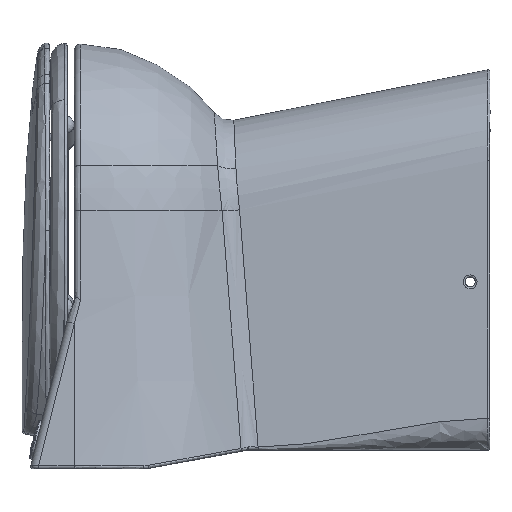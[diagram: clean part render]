
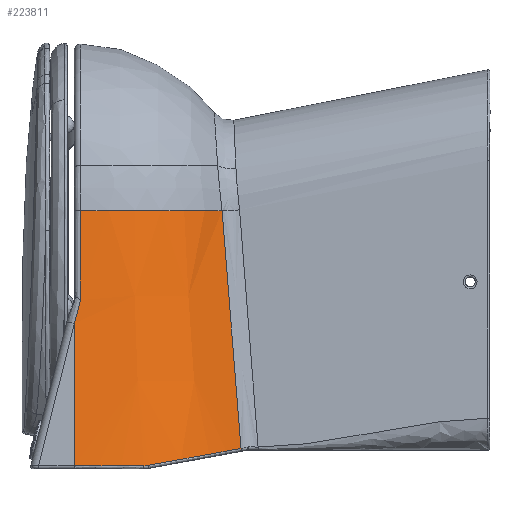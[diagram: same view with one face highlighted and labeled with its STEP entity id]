
A CAD part, left-side view. The second image highlights one B-rep face of the part: STEP entity #223811.
In plain terms, the highlighted conical face has half-angle 6.338 degrees and reference radius 179 mm.
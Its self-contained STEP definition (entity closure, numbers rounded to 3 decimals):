
#1657 = B_SPLINE_CURVE_WITH_KNOTS ( 'NONE', 3,
 ( #19451, #75058, #144416, #142193, #37627, #213667, #196633, #106965, #126270, #38738, #176265, #54644, #20566, #179606, #89871, #23924, #93240, #55779 ),
 .UNSPECIFIED., .F., .F.,
 ( 4, 2, 2, 2, 2, 2, 2, 2, 4 ),
 ( 0., 0.015, 0.023, 0.031, 0.062, 0.093, 0.1, 0.108, 0.123 ),
 .UNSPECIFIED. ) ;
#3231 = CARTESIAN_POINT ( 'NONE',  ( -187.799, -6.197, -75.043 ) ) ;
#4356 = CARTESIAN_POINT ( 'NONE',  ( -188.952, -6.195, -85.418 ) ) ;
#7313 = ORIENTED_EDGE ( 'NONE', *, *, #71809, .T. ) ;
#11017 = CARTESIAN_POINT ( 'NONE',  ( -191.674, 0., -109.012 ) ) ;
#12912 = CARTESIAN_POINT ( 'NONE',  ( -188.952, -6.195, -85.418 ) ) ;
#16528 = DIRECTION ( 'NONE',  ( 0., 0., 1. ) ) ;
#17618 = DIRECTION ( 'NONE',  ( 1., 0., 0. ) ) ;
#19451 = CARTESIAN_POINT ( 'NONE',  ( -193.467, -75.233, -252.222 ) ) ;
#20283 = CARTESIAN_POINT ( 'NONE',  ( -188.184, -6.196, -78.507 ) ) ;
#20566 = CARTESIAN_POINT ( 'NONE',  ( -138.283, -152.733, -238.149 ) ) ;
#20719 = VERTEX_POINT ( 'NONE', #222208 ) ;
#23924 = CARTESIAN_POINT ( 'NONE',  ( -126.462, -162.468, -236.381 ) ) ;
#24646 = VERTEX_POINT ( 'NONE', #67494 ) ;
#29949 = DIRECTION ( 'NONE',  ( -1., 0., 0. ) ) ;
#36221 = CARTESIAN_POINT ( 'NONE',  ( -181.985, -6.203, -22.734 ) ) ;
#37627 = CARTESIAN_POINT ( 'NONE',  ( -184.882, -93.6, -248.886 ) ) ;
#38548 = B_SPLINE_CURVE_WITH_KNOTS ( 'NONE', 3,
 ( #12912, #200398, #65164, #114115 ),
 .UNSPECIFIED., .F., .F.,
 ( 4, 4 ),
 ( 0.094, 0.119 ),
 .UNSPECIFIED. ) ;
#38738 = CARTESIAN_POINT ( 'NONE',  ( -156.351, -135.074, -241.355 ) ) ;
#41427 = VERTEX_POINT ( 'NONE', #43883 ) ;
#43883 = CARTESIAN_POINT ( 'NONE',  ( -188.952, -6.195, -85.418 ) ) ;
#44253 = ORIENTED_EDGE ( 'NONE', *, *, #182112, .T. ) ;
#45424 = CARTESIAN_POINT ( 'NONE',  ( -118.134, -168.397, -235.305 ) ) ;
#47076 = ORIENTED_EDGE ( 'NONE', *, *, #75992, .T. ) ;
#47473 = EDGE_CURVE ( 'NONE', #162203, #55395, #1657, .T. ) ;
#52141 = CARTESIAN_POINT ( 'NONE',  ( -178.892, -6.207, 5.095 ) ) ;
#53458 = CARTESIAN_POINT ( 'NONE',  ( -207.63, 0., -252.669 ) ) ;
#54357 = CARTESIAN_POINT ( 'NONE',  ( -185.52, -6.199, -54.538 ) ) ;
#54644 = CARTESIAN_POINT ( 'NONE',  ( -140.18, -151.04, -238.456 ) ) ;
#55149 = ORIENTED_EDGE ( 'NONE', *, *, #73479, .F. ) ;
#55395 = VERTEX_POINT ( 'NONE', #45424 ) ;
#55779 = CARTESIAN_POINT ( 'NONE',  ( -118.134, -168.397, -235.305 ) ) ;
#56603 = CARTESIAN_POINT ( 'NONE',  ( -187.8, -6.197, -75.051 ) ) ;
#62432 = VERTEX_POINT ( 'NONE', #206023 ) ;
#62836 = CARTESIAN_POINT ( 'NONE',  ( -194.774, -71.949, -252.669 ) ) ;
#64019 = ORIENTED_EDGE ( 'NONE', *, *, #64256, .F. ) ;
#64256 = EDGE_CURVE ( 'NONE', #20719, #24646, #205317, .T. ) ;
#65081 = CARTESIAN_POINT ( 'NONE',  ( -193.467, -75.233, -252.222 ) ) ;
#65164 = CARTESIAN_POINT ( 'NONE',  ( -190.8, -2.065, -101.143 ) ) ;
#65166 = CARTESIAN_POINT ( 'NONE',  ( 0., 0., 5.095 ) ) ;
#65882 = EDGE_CURVE ( 'NONE', #41427, #159106, #38548, .T. ) ;
#66351 = CARTESIAN_POINT ( 'NONE',  ( -195.378, -70.268, -252.669 ) ) ;
#67494 = CARTESIAN_POINT ( 'NONE',  ( -98.831, -149.243, 5.095 ) ) ;
#67662 = CARTESIAN_POINT ( 'NONE',  ( 0., 0., 5.095 ) ) ;
#71684 = VERTEX_POINT ( 'NONE', #185536 ) ;
#71809 = EDGE_CURVE ( 'NONE', #62432, #162203, #91518, .T. ) ;
#73479 = EDGE_CURVE ( 'NONE', #71684, #159106, #157735, .T. ) ;
#73667 = CARTESIAN_POINT ( 'NONE',  ( -186.279, -6.198, -61.367 ) ) ;
#75058 = CARTESIAN_POINT ( 'NONE',  ( -191.541, -79.925, -251.37 ) ) ;
#75873 = CARTESIAN_POINT ( 'NONE',  ( -187.038, -6.197, -68.197 ) ) ;
#75992 = EDGE_CURVE ( 'NONE', #71684, #62432, #140104, .T. ) ;
#82028 = AXIS2_PLACEMENT_3D ( 'NONE', #67662, #16528, #17618 ) ;
#83336 = DIRECTION ( 'NONE',  ( 0., 0., -1. ) ) ;
#83965 = CARTESIAN_POINT ( 'NONE',  ( -105.247, -155.669, -75.036 ) ) ;
#87582 = CARTESIAN_POINT ( 'NONE',  ( -199.421, -59.026, -252.669 ) ) ;
#89871 = CARTESIAN_POINT ( 'NONE',  ( -132.448, -157.69, -237.249 ) ) ;
#91518 = B_SPLINE_CURVE_WITH_KNOTS ( 'NONE', 3,
 ( #220742, #62836, #114030, #65081 ),
 .UNSPECIFIED., .F., .F.,
 ( 4, 4 ),
 ( 0., 0.005 ),
 .UNSPECIFIED. ) ;
#93240 = CARTESIAN_POINT ( 'NONE',  ( -122.356, -165.506, -235.83 ) ) ;
#106965 = CARTESIAN_POINT ( 'NONE',  ( -174.729, -111.185, -245.693 ) ) ;
#108610 = CONICAL_SURFACE ( 'NONE', #188416, 179., 0.111 ) ;
#110039 = CARTESIAN_POINT ( 'NONE',  ( -183.753, -6.201, -38.636 ) ) ;
#114030 = CARTESIAN_POINT ( 'NONE',  ( -194.136, -73.603, -252.518 ) ) ;
#114115 = CARTESIAN_POINT ( 'NONE',  ( -191.674, 0., -109.012 ) ) ;
#116059 = ORIENTED_EDGE ( 'NONE', *, *, #47473, .T. ) ;
#119741 = FACE_OUTER_BOUND ( 'NONE', #132245, .T. ) ;
#119762 = CARTESIAN_POINT ( 'NONE',  ( -193.467, -75.233, -252.222 ) ) ;
#121525 = CARTESIAN_POINT ( 'NONE',  ( -179.334, -6.206, 1.12 ) ) ;
#122846 = CARTESIAN_POINT ( 'NONE',  ( -202.492, -47.434, -252.669 ) ) ;
#126270 = CARTESIAN_POINT ( 'NONE',  ( -168.974, -119.451, -244.192 ) ) ;
#127338 = B_SPLINE_CURVE_WITH_KNOTS ( 'NONE', 3,
 ( #190717, #171507, #83965, #205530 ),
 .UNSPECIFIED., .F., .F.,
 ( 4, 4 ),
 ( 0.003, 0.245 ),
 .UNSPECIFIED. ) ;
#132245 = EDGE_LOOP ( 'NONE', ( #55149, #47076, #7313, #116059, #44253, #64019, #133849, #188136 ) ) ;
#133849 = ORIENTED_EDGE ( 'NONE', *, *, #159874, .T. ) ;
#135728 = CARTESIAN_POINT ( 'NONE',  ( -207.63, -11.947, -252.669 ) ) ;
#140104 = B_SPLINE_CURVE_WITH_KNOTS ( 'NONE', 3,
 ( #53458, #135728, #168673, #122846, #87582, #66351 ),
 .UNSPECIFIED., .F., .F.,
 ( 4, 2, 4 ),
 ( 0., 0.5, 1. ),
 .UNSPECIFIED. ) ;
#140679 = CARTESIAN_POINT ( 'NONE',  ( -188.129, 0., -77.1 ) ) ;
#140789 = CARTESIAN_POINT ( 'NONE',  ( -187.797, -6.197, -75.026 ) ) ;
#141906 = CARTESIAN_POINT ( 'NONE',  ( -180.218, -6.205, -6.831 ) ) ;
#142193 = CARTESIAN_POINT ( 'NONE',  ( -186.053, -91.352, -249.294 ) ) ;
#144416 = CARTESIAN_POINT ( 'NONE',  ( -189.444, -84.547, -250.53 ) ) ;
#157735 = LINE ( 'NONE', #140679, #158636 ) ;
#158636 = VECTOR ( 'NONE', #209905, 1000. ) ;
#159106 = VERTEX_POINT ( 'NONE', #11017 ) ;
#159874 = EDGE_CURVE ( 'NONE', #20719, #41427, #216093, .T. ) ;
#162203 = VERTEX_POINT ( 'NONE', #119762 ) ;
#168673 = CARTESIAN_POINT ( 'NONE',  ( -206.596, -23.894, -252.669 ) ) ;
#171507 = CARTESIAN_POINT ( 'NONE',  ( -111.683, -162.05, -155.17 ) ) ;
#174874 = CARTESIAN_POINT ( 'NONE',  ( -179.776, -6.206, -2.856 ) ) ;
#176265 = CARTESIAN_POINT ( 'NONE',  ( -149.483, -142.431, -240.019 ) ) ;
#179315 = CARTESIAN_POINT ( 'NONE',  ( -187.798, -6.197, -75.034 ) ) ;
#179606 = CARTESIAN_POINT ( 'NONE',  ( -134.417, -156.058, -237.545 ) ) ;
#182112 = EDGE_CURVE ( 'NONE', #55395, #24646, #127338, .T. ) ;
#185536 = CARTESIAN_POINT ( 'NONE',  ( -207.63, 0., -252.669 ) ) ;
#188136 = ORIENTED_EDGE ( 'NONE', *, *, #65882, .T. ) ;
#188416 = AXIS2_PLACEMENT_3D ( 'NONE', #65166, #83336, #29949 ) ;
#190717 = CARTESIAN_POINT ( 'NONE',  ( -118.134, -168.397, -235.305 ) ) ;
#194118 = CARTESIAN_POINT ( 'NONE',  ( -188.568, -6.196, -81.962 ) ) ;
#196633 = CARTESIAN_POINT ( 'NONE',  ( -181.202, -100.263, -247.676 ) ) ;
#200398 = CARTESIAN_POINT ( 'NONE',  ( -189.893, -4.13, -93.279 ) ) ;
#205317 = CIRCLE ( 'NONE', #82028, 179. ) ;
#205530 = CARTESIAN_POINT ( 'NONE',  ( -98.831, -149.243, 5.095 ) ) ;
#206023 = CARTESIAN_POINT ( 'NONE',  ( -195.378, -70.268, -252.669 ) ) ;
#209905 = DIRECTION ( 'NONE',  ( 0.11, 0., 0.994 ) ) ;
#213667 = CARTESIAN_POINT ( 'NONE',  ( -182.457, -98.055, -248.077 ) ) ;
#216093 = B_SPLINE_CURVE_WITH_KNOTS ( 'NONE', 3,
 ( #52141, #121525, #174874, #141906, #36221, #110039, #54357, #73667, #75873, #140789, #179315, #3231, #56603, #20283, #194118, #4356 ),
 .UNSPECIFIED., .F., .F.,
 ( 4, 3, 3, 3, 3, 4 ),
 ( 0., 0.012, 0.06, 0.081, 0.081, 0.091 ),
 .UNSPECIFIED. ) ;
#220742 = CARTESIAN_POINT ( 'NONE',  ( -195.378, -70.268, -252.669 ) ) ;
#222208 = CARTESIAN_POINT ( 'NONE',  ( -178.892, -6.207, 5.095 ) ) ;
#223811 = ADVANCED_FACE ( 'NONE', ( #119741 ), #108610, .T. ) ;
